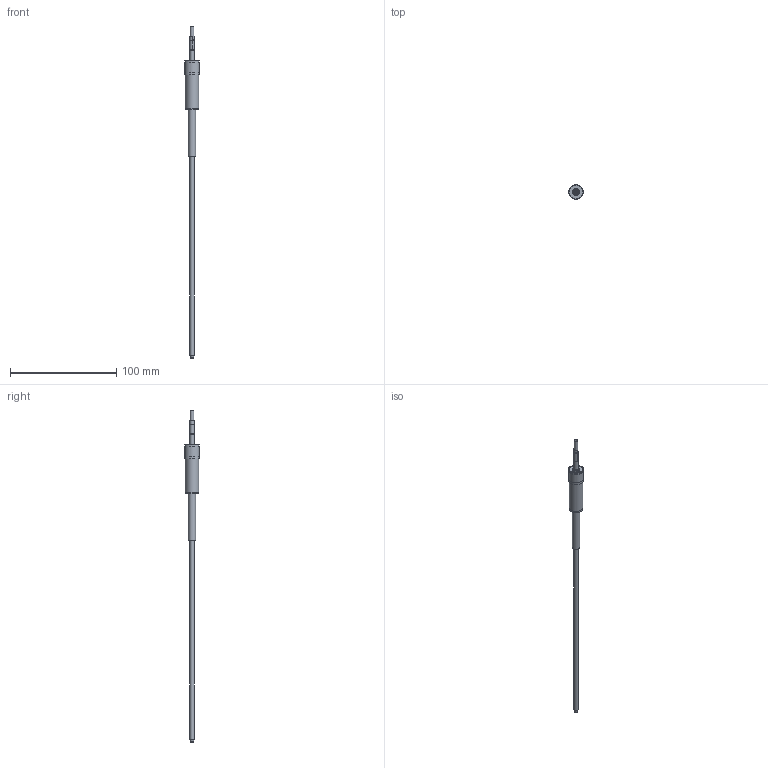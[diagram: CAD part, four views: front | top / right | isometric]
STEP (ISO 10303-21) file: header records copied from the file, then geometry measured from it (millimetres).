
FILE_DESCRIPTION(('STEP AP214'),'1');
FILE_NAME('LC-04300.stp','2025-10-28T13:24:57',(' '),(' '),'Spatial InterOp 3D',' ',' ');
FILE_SCHEMA(('AUTOMOTIVE_DESIGN { 1 0 10303 214 1 1 1 1 }'));
Length unit declared in the file: metre
Products named in the file (6): LC-04SU-SEDE; LC-04SU; LC-04P300-SEDE; LC-04P300
Bounding box: 14 x 14 x 312.93 mm (x, y, z)
Volume: 8020.6 mm3; surface area: 12298.3 mm2
Topology: 2 solids, 6 shells, 51 faces, 112 edges, 77 vertices
Faces by surface type: plane 24, cylinder 15, cone 9, torus 2, sphere 1
Full cylindrical faces by diameter (mm): 2 x1, 3.3 x1, 3.8 x1, 4 x3, 4.5 x1, 7 x1, 7.02 x1, 8.5 x1, 12.9 x1, 13 x1, 14 x1
Entity records: 2110 total; most frequent: CARTESIAN_POINT 265, DIRECTION 230, ORIENTED_EDGE 140, STYLED_ITEM 116, PRESENTATION_STYLE_ASSIGNMENT 116, COLOUR_RGB 116, AXIS2_PLACEMENT_3D 103, EDGE_LOOP 90
